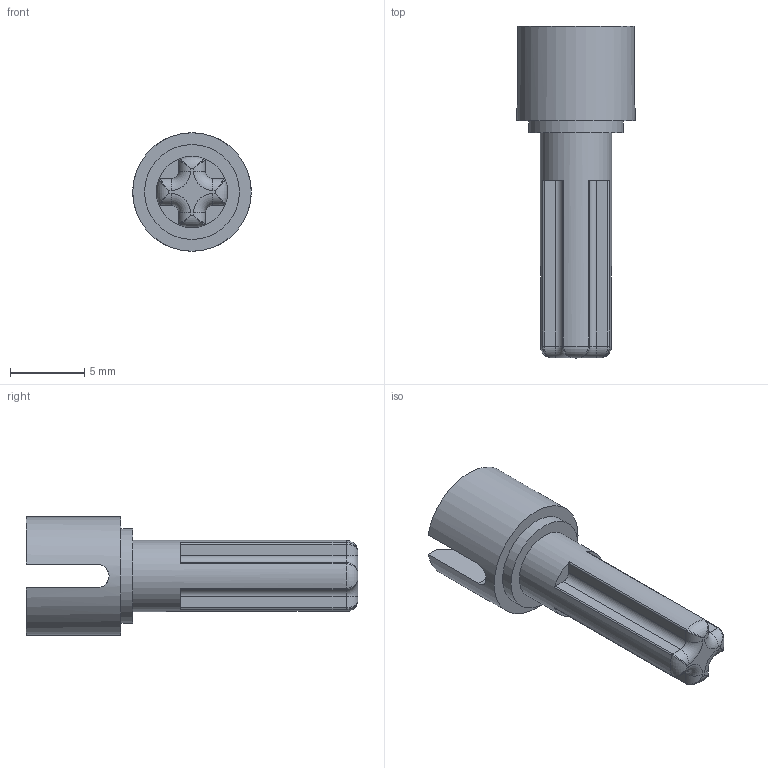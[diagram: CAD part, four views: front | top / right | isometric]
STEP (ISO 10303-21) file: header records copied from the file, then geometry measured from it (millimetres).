
FILE_DESCRIPTION(/* description */ ('Unknown'),/* implementation_level */ '2;1');
FILE_NAME(/* name */ 'Gray_4610374_JCA',/* time_stamp */ '2025-07-22T00:00:28+02:00',/* author */ ('Unknown'),/* organization */ ('Unknown'),/* preprocessor_version */ 'ST-DEVELOPER v19.4',/* originating_system */ 'Solid Edge',/* authorisation */ 'Unknown');
FILE_SCHEMA (('AUTOMOTIVE_DESIGN {1 0 10303 214 3 1 1}'));
Length unit declared in the file: millimetre
Products named in the file (1): Gray_4610374_JCA
Bounding box: 8 x 22.4 x 8 mm (x, y, z)
Volume: 446.7 mm3; surface area: 589.4 mm2
Topology: 1 solids, 1 shells, 68 faces, 169 edges, 95 vertices
Faces by surface type: cylinder 27, plane 21, torus 8, bspline 8, cone 2, sphere 2
Full cylindrical faces by diameter (mm): 4.8 x1, 6.4 x1, 8 x1
Entity records: 2048 total; most frequent: CARTESIAN_POINT 528, DIRECTION 314, ORIENTED_EDGE 308, EDGE_CURVE 154, AXIS2_PLACEMENT_3D 125, VERTEX_POINT 93, EDGE_LOOP 73, FACE_BOUND 73
